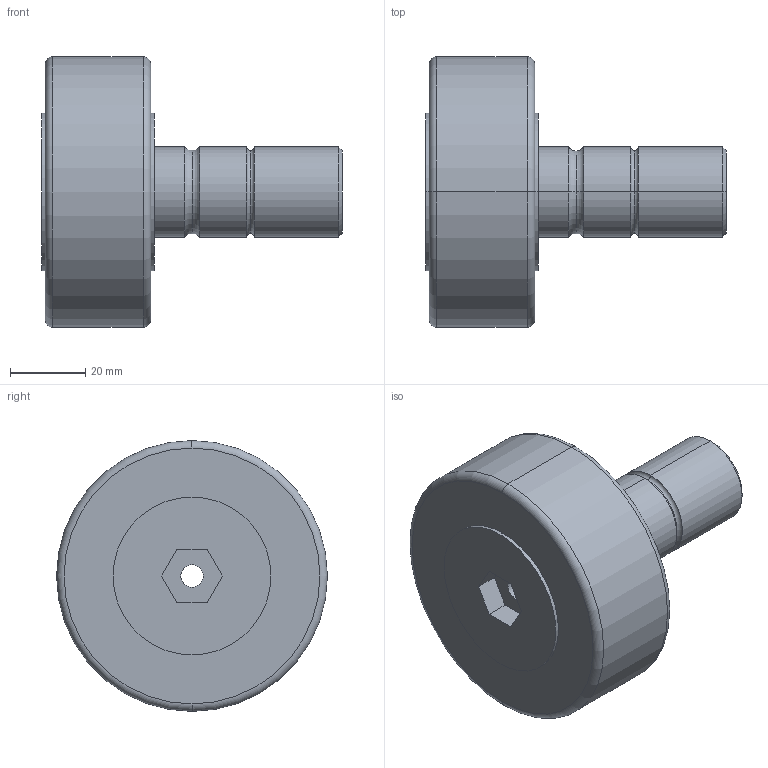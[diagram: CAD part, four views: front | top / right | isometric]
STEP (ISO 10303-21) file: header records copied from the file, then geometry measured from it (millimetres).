
FILE_DESCRIPTION (( 'STEP AP214' ), '1' );
FILE_NAME ('3DNUKR72.STEP', '2013-12-19T08:14:41', ( 'usuario' ), ( 'Hewlett-Packard Company' ), 'SwSTEP 2.0', 'SolidWorks 2017', '' );
FILE_SCHEMA (( 'AUTOMOTIVE_DESIGN' ));
Length unit declared in the file: millimetre
Products named in the file (1): 3DNUKR72
Bounding box: 80 x 72 x 72 mm (x, y, z)
Volume: 134596.9 mm3; surface area: 20058.6 mm2
Topology: 1 solids, 1 shells, 51 faces, 113 edges, 68 vertices
Faces by surface type: plane 19, cylinder 16, torus 14, cone 2
Entity records: 1554 total; most frequent: CARTESIAN_POINT 353, DIRECTION 264, ORIENTED_EDGE 226, EDGE_CURVE 113, AXIS2_PLACEMENT_3D 105, VERTEX_POINT 68, EDGE_LOOP 59, LINE 54
